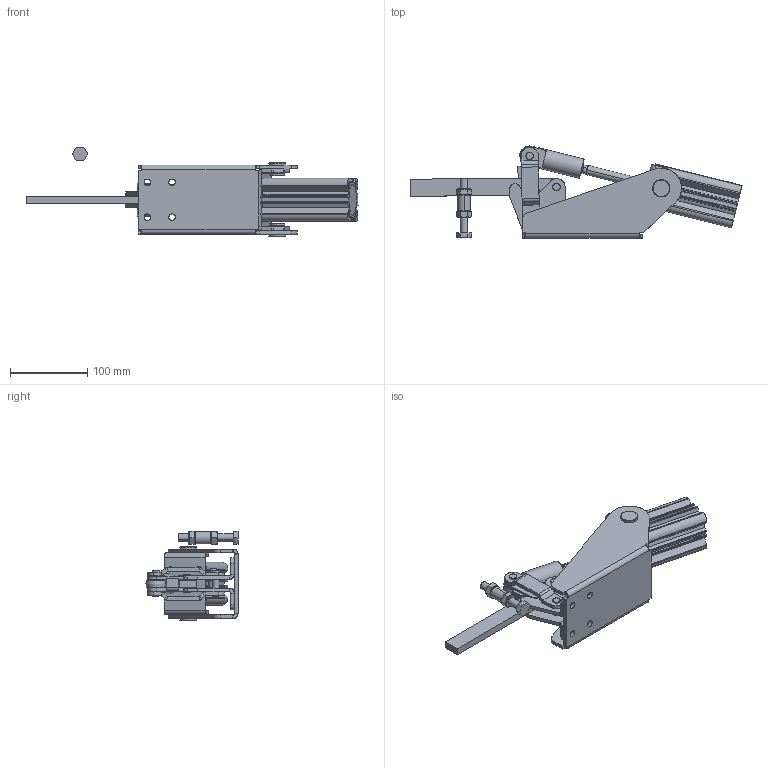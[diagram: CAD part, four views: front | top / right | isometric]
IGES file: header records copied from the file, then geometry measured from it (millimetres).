
Start section: SolidWorks IGES file using analytic representation for surfaces
Global section: file name: C:\Projetos\Grampos\KF-111 P\KF-111 DS P\KF-111 DS P.IGS; native system: SolidWorks 2015; preprocessor: SolidWorks 2015; author: Ricardo; date: 161215.094514; units: millimetre
Bounding box: 428.45 x 118.74 x 115.53 mm (x, y, z)
Surface area: 239207.9 mm2 (no closed solid volume)
Topology: 0 solids, 0 shells, 684 faces, 10488 edges, 10478 vertices
Faces by surface type: revolution 377, bspline 307
